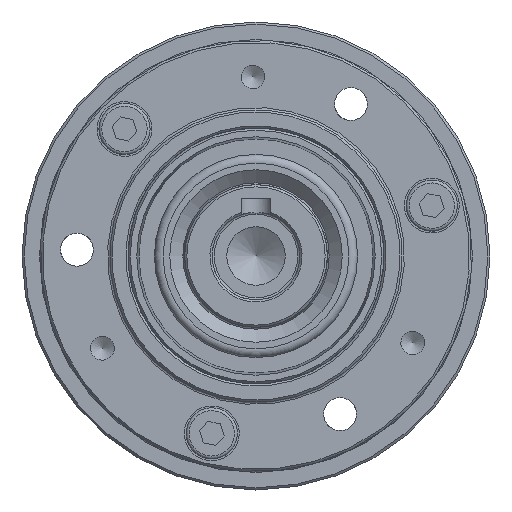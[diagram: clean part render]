
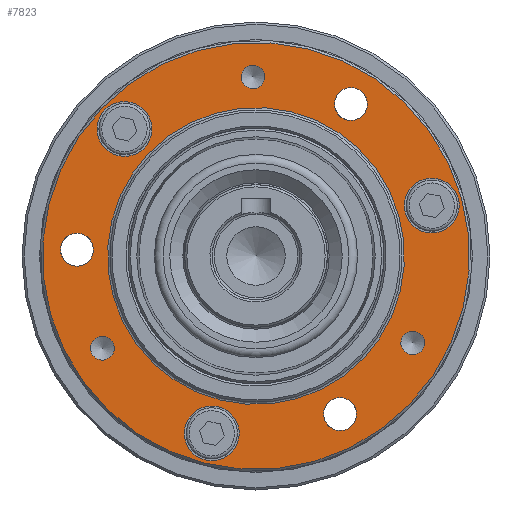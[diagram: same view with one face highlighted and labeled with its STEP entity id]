
A CAD part, left-side view. The second image highlights one B-rep face of the part: STEP entity #7823.
In plain terms, the highlighted planar face has unit normal (-1, 0, 0).
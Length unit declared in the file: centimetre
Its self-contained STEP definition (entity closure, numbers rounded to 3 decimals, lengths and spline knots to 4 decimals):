
#1255=PLANE('',#8466);
#1495=FACE_BOUND('',#2492,.T.);
#1496=FACE_BOUND('',#2493,.T.);
#1497=FACE_BOUND('',#2494,.T.);
#1498=FACE_BOUND('',#2495,.T.);
#1499=FACE_BOUND('',#2496,.T.);
#1500=FACE_BOUND('',#2497,.T.);
#1501=FACE_BOUND('',#2498,.T.);
#1502=FACE_BOUND('',#2499,.T.);
#1503=FACE_BOUND('',#2500,.T.);
#1504=FACE_BOUND('',#2501,.T.);
#1889=FACE_OUTER_BOUND('',#2491,.T.);
#2491=EDGE_LOOP('',(#5881));
#2492=EDGE_LOOP('',(#5882));
#2493=EDGE_LOOP('',(#5883));
#2494=EDGE_LOOP('',(#5884));
#2495=EDGE_LOOP('',(#5885));
#2496=EDGE_LOOP('',(#5886));
#2497=EDGE_LOOP('',(#5887));
#2498=EDGE_LOOP('',(#5888));
#2499=EDGE_LOOP('',(#5889));
#2500=EDGE_LOOP('',(#5890));
#2501=EDGE_LOOP('',(#5891));
#3057=CIRCLE('',#8443,2.92);
#3058=CIRCLE('',#8445,0.1621);
#3060=CIRCLE('',#8449,0.1621);
#3062=CIRCLE('',#8453,0.1621);
#3064=CIRCLE('',#8457,0.375);
#3065=CIRCLE('',#8459,0.375);
#3067=CIRCLE('',#8462,0.375);
#3070=CIRCLE('',#8467,0.225);
#3071=CIRCLE('',#8468,0.225);
#3072=CIRCLE('',#8469,0.225);
#3073=CIRCLE('',#8470,2.03);
#3696=VERTEX_POINT('',#12896);
#3697=VERTEX_POINT('',#12899);
#3699=VERTEX_POINT('',#12905);
#3701=VERTEX_POINT('',#12911);
#3703=VERTEX_POINT('',#12917);
#3704=VERTEX_POINT('',#12920);
#3706=VERTEX_POINT('',#12925);
#3709=VERTEX_POINT('',#12933);
#3710=VERTEX_POINT('',#12935);
#3711=VERTEX_POINT('',#12937);
#3712=VERTEX_POINT('',#12939);
#4507=EDGE_CURVE('',#3696,#3696,#3057,.T.);
#4508=EDGE_CURVE('',#3697,#3697,#3058,.T.);
#4510=EDGE_CURVE('',#3699,#3699,#3060,.T.);
#4512=EDGE_CURVE('',#3701,#3701,#3062,.T.);
#4514=EDGE_CURVE('',#3703,#3703,#3064,.T.);
#4515=EDGE_CURVE('',#3704,#3704,#3065,.T.);
#4517=EDGE_CURVE('',#3706,#3706,#3067,.T.);
#4520=EDGE_CURVE('',#3709,#3709,#3070,.T.);
#4521=EDGE_CURVE('',#3710,#3710,#3071,.T.);
#4522=EDGE_CURVE('',#3711,#3711,#3072,.T.);
#4523=EDGE_CURVE('',#3712,#3712,#3073,.T.);
#5881=ORIENTED_EDGE('',*,*,#4507,.F.);
#5882=ORIENTED_EDGE('',*,*,#4520,.T.);
#5883=ORIENTED_EDGE('',*,*,#4521,.T.);
#5884=ORIENTED_EDGE('',*,*,#4522,.T.);
#5885=ORIENTED_EDGE('',*,*,#4508,.T.);
#5886=ORIENTED_EDGE('',*,*,#4510,.T.);
#5887=ORIENTED_EDGE('',*,*,#4512,.T.);
#5888=ORIENTED_EDGE('',*,*,#4514,.T.);
#5889=ORIENTED_EDGE('',*,*,#4515,.T.);
#5890=ORIENTED_EDGE('',*,*,#4517,.T.);
#5891=ORIENTED_EDGE('',*,*,#4523,.F.);
#7823=ADVANCED_FACE('',(#1889,#1495,#1496,#1497,#1498,#1499,#1500,#1501,
#1502,#1503,#1504),#1255,.T.);
#8443=AXIS2_PLACEMENT_3D('',#12897,#9921,#9922);
#8445=AXIS2_PLACEMENT_3D('',#12900,#9925,#9926);
#8449=AXIS2_PLACEMENT_3D('',#12906,#9933,#9934);
#8453=AXIS2_PLACEMENT_3D('',#12912,#9941,#9942);
#8457=AXIS2_PLACEMENT_3D('',#12918,#9949,#9950);
#8459=AXIS2_PLACEMENT_3D('',#12921,#9953,#9954);
#8462=AXIS2_PLACEMENT_3D('',#12926,#9959,#9960);
#8466=AXIS2_PLACEMENT_3D('',#12932,#9967,#9968);
#8467=AXIS2_PLACEMENT_3D('',#12934,#9969,#9970);
#8468=AXIS2_PLACEMENT_3D('',#12936,#9971,#9972);
#8469=AXIS2_PLACEMENT_3D('',#12938,#9973,#9974);
#8470=AXIS2_PLACEMENT_3D('',#12940,#9975,#9976);
#9921=DIRECTION('center_axis',(1.,0.,0.));
#9922=DIRECTION('ref_axis',(0.,-0.961,0.276));
#9925=DIRECTION('center_axis',(1.,0.,0.));
#9926=DIRECTION('ref_axis',(0.,0.276,0.961));
#9933=DIRECTION('center_axis',(1.,0.,0.));
#9934=DIRECTION('ref_axis',(0.,0.276,0.961));
#9941=DIRECTION('center_axis',(1.,0.,0.));
#9942=DIRECTION('ref_axis',(0.,0.276,0.961));
#9949=DIRECTION('center_axis',(1.,0.,0.));
#9950=DIRECTION('ref_axis',(0.,0.276,0.961));
#9953=DIRECTION('center_axis',(1.,0.,0.));
#9954=DIRECTION('ref_axis',(0.,0.276,0.961));
#9959=DIRECTION('center_axis',(1.,0.,0.));
#9960=DIRECTION('ref_axis',(0.,0.276,0.961));
#9967=DIRECTION('center_axis',(-1.,0.,0.));
#9968=DIRECTION('ref_axis',(0.,0.276,0.961));
#9969=DIRECTION('center_axis',(1.,0.,0.));
#9970=DIRECTION('ref_axis',(0.,0.276,0.961));
#9971=DIRECTION('center_axis',(1.,0.,0.));
#9972=DIRECTION('ref_axis',(0.,0.276,0.961));
#9973=DIRECTION('center_axis',(1.,0.,0.));
#9974=DIRECTION('ref_axis',(0.,0.276,0.961));
#9975=DIRECTION('center_axis',(-1.,0.,0.));
#9976=DIRECTION('ref_axis',(0.,-0.961,0.276));
#12896=CARTESIAN_POINT('',(0.3,2.8069,-0.8049));
#12897=CARTESIAN_POINT('Origin',(0.3,0.,
0.));
#12899=CARTESIAN_POINT('',(0.3,-0.0019,2.2938));
#12900=CARTESIAN_POINT('Origin',(0.3,0.0428,2.4496));
#12905=CARTESIAN_POINT('',(0.3,2.0554,-1.4177));
#12906=CARTESIAN_POINT('Origin',(0.3,2.1001,-1.2618));
#12911=CARTESIAN_POINT('',(0.3,-2.1875,-1.3436));
#12912=CARTESIAN_POINT('Origin',(0.3,-2.1428,-1.1878));
#12917=CARTESIAN_POINT('',(0.3,1.695,1.3762));
#12918=CARTESIAN_POINT('Origin',(0.3,1.7983,1.7366));
#12920=CARTESIAN_POINT('',(0.3,0.5014,-2.7862));
#12921=CARTESIAN_POINT('Origin',(0.3,0.6048,-2.4257));
#12925=CARTESIAN_POINT('',(0.3,-2.5065,0.3286));
#12926=CARTESIAN_POINT('Origin',(0.3,-2.4032,0.6891));
#12932=CARTESIAN_POINT('Origin',(0.3,2.3791,-0.6822));
#12933=CARTESIAN_POINT('',(0.3,-1.2122,-2.3795));
#12934=CARTESIAN_POINT('Origin',(0.3,-1.1502,-2.1632));
#12935=CARTESIAN_POINT('',(0.3,-1.3603,1.8614));
#12936=CARTESIAN_POINT('Origin',(0.3,-1.2983,2.0777));
#12937=CARTESIAN_POINT('',(0.3,2.3865,-0.1308));
#12938=CARTESIAN_POINT('Origin',(0.3,2.4485,0.0855));
#12939=CARTESIAN_POINT('',(0.3,1.9514,-0.5595));
#12940=CARTESIAN_POINT('Origin',(0.3,0.,
0.));
